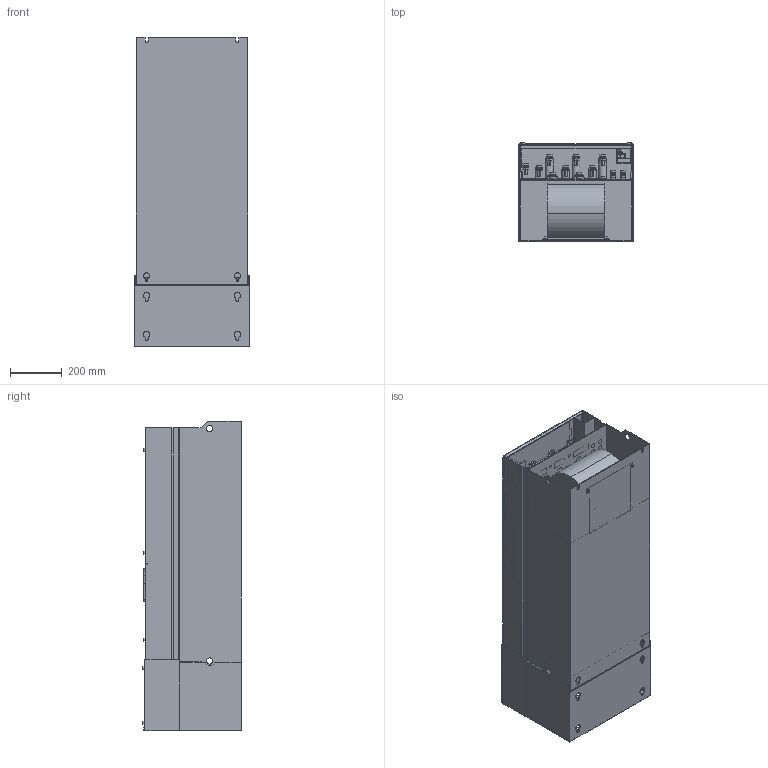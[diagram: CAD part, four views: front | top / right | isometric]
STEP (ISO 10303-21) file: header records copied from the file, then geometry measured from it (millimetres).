
FILE_DESCRIPTION((''),'2;1');
FILE_NAME('VFAS3_SA7_ASM_1_ASM_1_ASM','2021-08-12T15:09:34',('SESA57284'),('Schneider-Electric'),'CREO PARAMETRIC BY PTC INC, 2019471','CREO PARAMETRIC BY PTC INC, 2019471','');
FILE_SCHEMA(('AP242_MANAGED_MODEL_BASED_3D_ENGINEERING_MIM_LF { 1 0 10303 442 1 1 4 }'));
Products named in the file (23): PRT0001_1_1_1_1_1; PRT0004_1_1_1_1_1; PRT0101_1_1_1_1; PRT0005_1_1_1_1_1; PRT0102_1_1_1_1; PRT0103_1_1_1_1; PRT0007_1_1_1_1_1; PRT0008_1_1_1_1_1; PRT0104_1_1_1_1; PRT0105_1_1_1_1; PRT0009_1_1_1_1_1; PRT0106_1_1_1_1; PRT0010_1_1_1_1_1; PRT0012_1_1_1_1_1; PRT0013_1_1_1_1_1; PRT0109_1_1_1_1; PRT0110_1_1_1_1; PRT0002_1_1_1_1_1; PRT0003_1_1_1_1_1; PRT0006_1_1_1_1_1; PRT0202_1_1_1_1; PRT0300_1_1_1_1; VFAS3_SA7_ASM_1_ASM_1_ASM
Assembly tree (51 placements, depth 2):
  VFAS3_SA7_ASM_1_ASM_1_ASM
    PRT0001_1_1_1_1_1  x2
    PRT0004_1_1_1_1_1  x2
    PRT0101_1_1_1_1  x5
    PRT0005_1_1_1_1_1  x4
    PRT0102_1_1_1_1  x8
    PRT0103_1_1_1_1
    PRT0007_1_1_1_1_1  x2
    PRT0008_1_1_1_1_1  x2
    PRT0104_1_1_1_1
    PRT0105_1_1_1_1
    PRT0009_1_1_1_1_1
    PRT0106_1_1_1_1
    PRT0010_1_1_1_1_1
    PRT0012_1_1_1_1_1
    PRT0013_1_1_1_1_1
    PRT0109_1_1_1_1
    PRT0110_1_1_1_1
    PRT0002_1_1_1_1_1  x2
    PRT0003_1_1_1_1_1  x6
    PRT0006_1_1_1_1_1  x6
    PRT0202_1_1_1_1
    PRT0300_1_1_1_1
Bounding box: 440 x 379.5 x 1190 mm (x, y, z)
Volume: 10501409.2 mm3; surface area: 5622368.1 mm2
Topology: 49 solids, 50 shells, 5385 faces, 15458 edges, 10238 vertices
Faces by surface type: plane 4766, cylinder 553, cone 46, torus 16, bspline 4
Entity records: 166354 total; most frequent: CARTESIAN_POINT 30287, ORIENTED_EDGE 28676, DIRECTION 25056, EDGE_CURVE 14338, VECTOR 13206, LINE 13206, VERTEX_POINT 9513, EDGE_LOOP 6843
